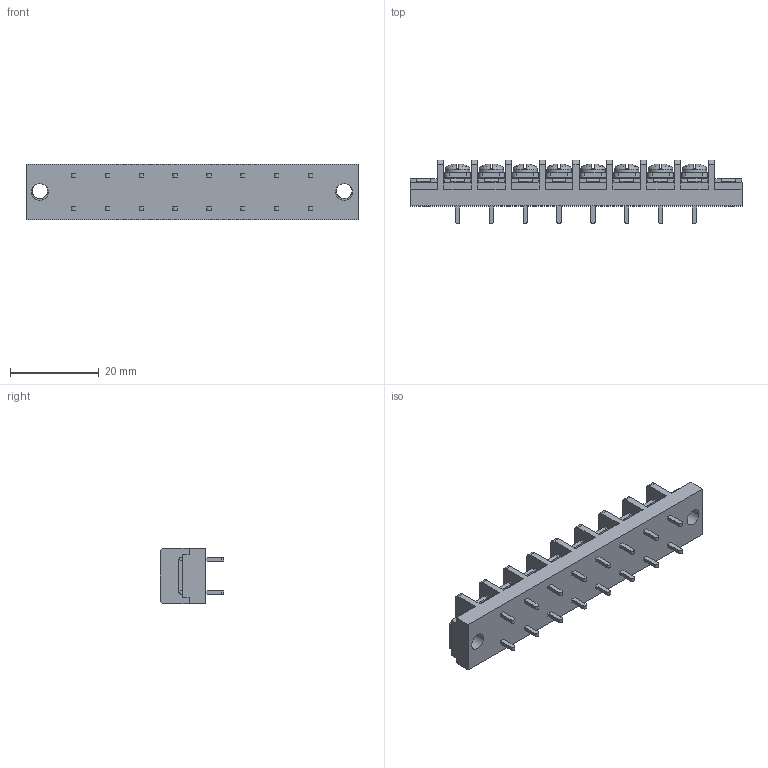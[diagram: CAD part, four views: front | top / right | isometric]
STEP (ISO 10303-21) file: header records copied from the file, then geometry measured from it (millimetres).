
FILE_DESCRIPTION(/* description */ ('Alibre Inc.'),/* implementation_level */ '2;1');
FILE_NAME(/* name */ 'export0',/* time_stamp */ '2015-10-26T18:30:08+09:00',/* author */ (''),/* organization */ (''),/* preprocessor_version */ 'ST-DEVELOPER v14',/* originating_system */ 'Alibre',/* authorisation */ '');
FILE_SCHEMA (('CONFIG_CONTROL_DESIGN'));
Length unit declared in the file: centimetre
Products named in the file (1): ID_1
Bounding box: 74.78 x 14.3 x 12.5 mm (x, y, z)
Volume: 6406.8 mm3; surface area: 5881.4 mm2
Topology: 1 solids, 17 shells, 1244 faces, 3360 edges, 2212 vertices
Faces by surface type: plane 970, cylinder 106, bspline 104, cone 32, torus 16, sphere 16
Full cylindrical faces by diameter (mm): 3 x8, 3.5 x2, 3.8 x2, 5.5 x8
Entity records: 36873 total; most frequent: CARTESIAN_POINT 7957, ORIENTED_EDGE 6608, DIRECTION 4542, EDGE_CURVE 3304, VECTOR 2400, LINE 2400, VERTEX_POINT 2192, AXIS2_PLACEMENT_3D 1509
